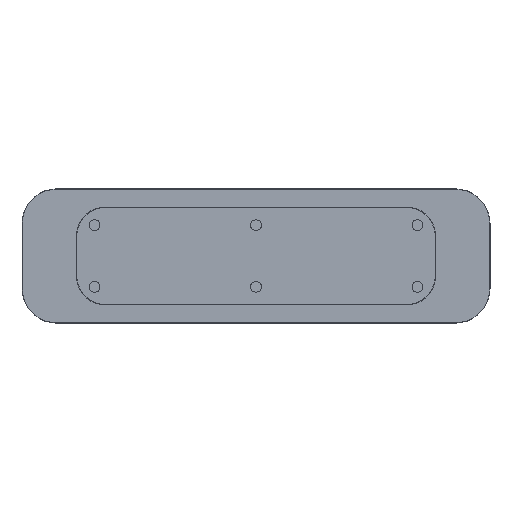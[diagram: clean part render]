
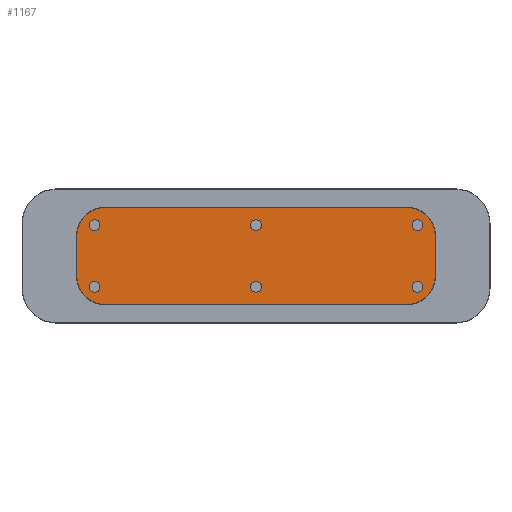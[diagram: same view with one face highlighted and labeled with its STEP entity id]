
A CAD part, front view. The second image highlights one B-rep face of the part: STEP entity #1167.
In plain terms, the highlighted planar face has unit normal (0, -1, 0).
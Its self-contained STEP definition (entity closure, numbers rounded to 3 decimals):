
#90=PLANE('',#1325);
#163=FACE_OUTER_BOUND('',#249,.T.);
#249=EDGE_LOOP('',(#1001,#1002,#1003,#1004,#1005,#1006,#1007,#1008));
#320=CIRCLE('',#1302,79.);
#324=CIRCLE('',#1308,79.);
#328=CIRCLE('',#1314,79.);
#332=CIRCLE('',#1320,79.);
#412=LINE('',#1982,#500);
#413=LINE('',#1990,#501);
#415=LINE('',#2002,#503);
#417=LINE('',#2011,#505);
#500=VECTOR('',#1600,10.);
#501=VECTOR('',#1611,10.);
#503=VECTOR('',#1625,10.);
#505=VECTOR('',#1637,10.);
#586=VERTEX_POINT('',#1974);
#587=VERTEX_POINT('',#1976);
#588=VERTEX_POINT('',#1980);
#589=VERTEX_POINT('',#1984);
#590=VERTEX_POINT('',#1988);
#591=VERTEX_POINT('',#1992);
#593=VERTEX_POINT('',#1998);
#595=VERTEX_POINT('',#2004);
#719=EDGE_CURVE('',#586,#587,#320,.T.);
#722=EDGE_CURVE('',#587,#588,#412,.T.);
#724=EDGE_CURVE('',#588,#589,#324,.T.);
#726=EDGE_CURVE('',#589,#590,#413,.T.);
#729=EDGE_CURVE('',#590,#591,#328,.T.);
#732=EDGE_CURVE('',#591,#593,#415,.T.);
#735=EDGE_CURVE('',#593,#595,#332,.T.);
#737=EDGE_CURVE('',#595,#586,#417,.T.);
#1001=ORIENTED_EDGE('',*,*,#719,.F.);
#1002=ORIENTED_EDGE('',*,*,#737,.F.);
#1003=ORIENTED_EDGE('',*,*,#735,.F.);
#1004=ORIENTED_EDGE('',*,*,#732,.F.);
#1005=ORIENTED_EDGE('',*,*,#729,.F.);
#1006=ORIENTED_EDGE('',*,*,#726,.F.);
#1007=ORIENTED_EDGE('',*,*,#724,.F.);
#1008=ORIENTED_EDGE('',*,*,#722,.F.);
#1167=ADVANCED_FACE('',(#163),#90,.T.);
#1302=AXIS2_PLACEMENT_3D('',#1977,#1592,#1593);
#1308=AXIS2_PLACEMENT_3D('',#1986,#1605,#1606);
#1314=AXIS2_PLACEMENT_3D('',#1996,#1618,#1619);
#1320=AXIS2_PLACEMENT_3D('',#2008,#1632,#1633);
#1325=AXIS2_PLACEMENT_3D('',#2018,#1647,#1648);
#1592=DIRECTION('center_axis',(0.,1.,0.));
#1593=DIRECTION('ref_axis',(-0.707,0.,0.707));
#1600=DIRECTION('',(1.,0.,0.));
#1605=DIRECTION('center_axis',(0.,1.,0.));
#1606=DIRECTION('ref_axis',(0.707,0.,0.707));
#1611=DIRECTION('',(0.,0.,-1.));
#1618=DIRECTION('center_axis',(0.,1.,0.));
#1619=DIRECTION('ref_axis',(0.707,0.,-0.707));
#1625=DIRECTION('',(-1.,0.,0.));
#1632=DIRECTION('center_axis',(0.,1.,0.));
#1633=DIRECTION('ref_axis',(-0.707,0.,-0.707));
#1637=DIRECTION('',(0.,0.,1.));
#1647=DIRECTION('center_axis',(0.,-1.,0.));
#1648=DIRECTION('ref_axis',(0.,0.,-1.));
#1974=CARTESIAN_POINT('',(-494.,5.,55.));
#1976=CARTESIAN_POINT('',(-415.,5.,134.));
#1977=CARTESIAN_POINT('Origin',(-415.,5.,55.));
#1980=CARTESIAN_POINT('',(415.,5.,134.));
#1982=CARTESIAN_POINT('',(-207.5,5.,134.));
#1984=CARTESIAN_POINT('',(494.,5.,55.));
#1986=CARTESIAN_POINT('Origin',(415.,5.,55.));
#1988=CARTESIAN_POINT('',(494.,5.,-55.));
#1990=CARTESIAN_POINT('',(494.,5.,27.5));
#1992=CARTESIAN_POINT('',(415.,5.,-134.));
#1996=CARTESIAN_POINT('Origin',(415.,5.,-55.));
#1998=CARTESIAN_POINT('',(-415.,5.,-134.));
#2002=CARTESIAN_POINT('',(207.5,5.,-134.));
#2004=CARTESIAN_POINT('',(-494.,5.,-55.));
#2008=CARTESIAN_POINT('Origin',(-415.,5.,-55.));
#2011=CARTESIAN_POINT('',(-494.,5.,-27.5));
#2018=CARTESIAN_POINT('Origin',(0.,5.,0.));
